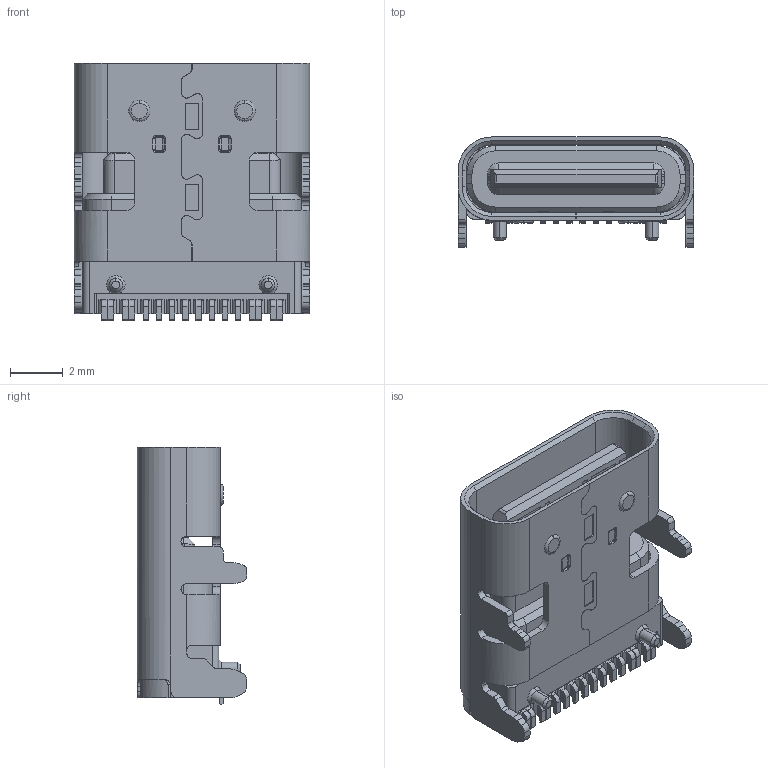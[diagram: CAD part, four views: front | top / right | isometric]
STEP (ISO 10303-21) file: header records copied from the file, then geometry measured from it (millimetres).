
FILE_DESCRIPTION((''),'2;1');
FILE_NAME('1030039','2023-04-20T14:32:17',('Administrator'),(''),'CREO PARAMETRIC BY PTC INC, 2019080','CREO PARAMETRIC BY PTC INC, 2019080','');
FILE_SCHEMA(('CONFIG_CONTROL_DESIGN'));
Length unit declared in the file: millimetre
Products named in the file (1): 1030039
Bounding box: 8.94 x 4.16 x 9.75 mm (x, y, z)
Volume: 164.8 mm3; surface area: 619.9 mm2
Topology: 1 solids, 25 shells, 1018 faces, 2756 edges, 1788 vertices
Faces by surface type: plane 700, cylinder 248, cone 30, torus 28, bspline 12
Entity records: 32281 total; most frequent: CARTESIAN_POINT 6381, ORIENTED_EDGE 5512, DIRECTION 5228, EDGE_CURVE 2756, VECTOR 2072, LINE 2072, VERTEX_POINT 1788, AXIS2_PLACEMENT_3D 1578
